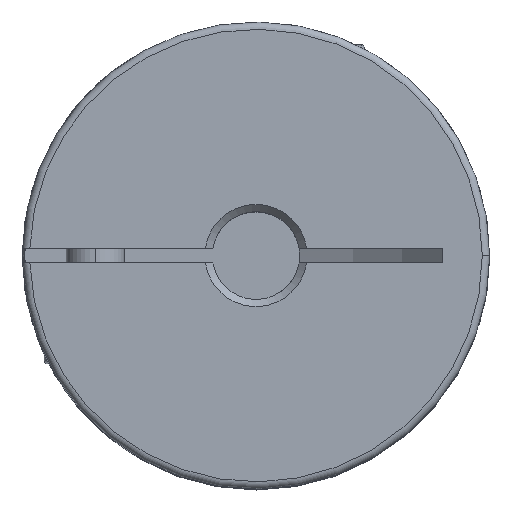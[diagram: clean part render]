
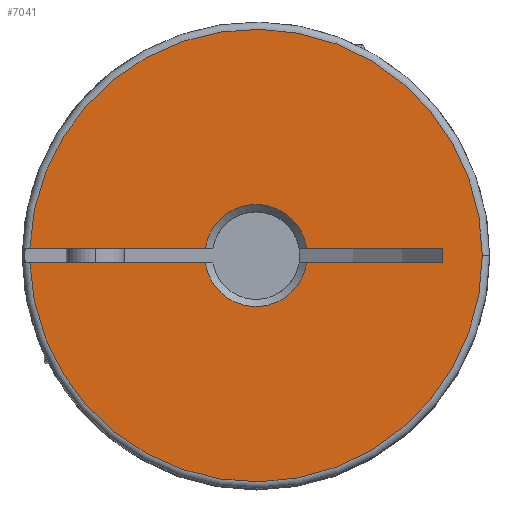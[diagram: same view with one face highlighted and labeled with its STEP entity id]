
A CAD part, top view. The second image highlights one B-rep face of the part: STEP entity #7041.
In plain terms, the highlighted planar face has unit normal (0, 0, 1).
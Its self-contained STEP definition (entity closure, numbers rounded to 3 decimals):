
#152 = EDGE_CURVE ( 'NONE', #3854, #3875, #313, .T. ) ;
#153 = EDGE_CURVE ( 'NONE', #3875, #3871, #296, .T. ) ;
#295 = VECTOR ( 'NONE', #6481, 1000. ) ;
#296 = CIRCLE ( 'NONE', #4513, 3.5 ) ;
#313 = LINE ( 'NONE', #6416, #295 ) ;
#391 = LINE ( 'NONE', #1202, #399 ) ;
#393 = LINE ( 'NONE', #1205, #396 ) ;
#395 = CIRCLE ( 'NONE', #4748, 15.5 ) ;
#396 = VECTOR ( 'NONE', #1204, 1000. ) ;
#397 = LINE ( 'NONE', #1194, #401 ) ;
#399 = VECTOR ( 'NONE', #1203, 1000. ) ;
#400 = LINE ( 'NONE', #1191, #403 ) ;
#401 = VECTOR ( 'NONE', #1193, 1000. ) ;
#403 = VECTOR ( 'NONE', #1190, 1000. ) ;
#753 = FACE_OUTER_BOUND ( 'NONE', #3537, .T. ) ;
#789 = EDGE_CURVE ( 'NONE', #3847, #3868, #2090, .T. ) ;
#1190 = DIRECTION ( 'NONE',  ( 0., -1., 0. ) ) ;
#1191 = CARTESIAN_POINT ( 'NONE',  ( 12.8, 0.5, 17.45 ) ) ;
#1193 = DIRECTION ( 'NONE',  ( -1., 0., 0. ) ) ;
#1194 = CARTESIAN_POINT ( 'NONE',  ( 12.8, 0.5, 17.45 ) ) ;
#1195 = DIRECTION ( 'NONE',  ( 1., 0., 0. ) ) ;
#1198 = DIRECTION ( 'NONE',  ( 0., 0., 1. ) ) ;
#1200 = CARTESIAN_POINT ( 'NONE',  ( 0., 0., 17.45 ) ) ;
#1202 = CARTESIAN_POINT ( 'NONE',  ( 12.8, 0.5, 17.45 ) ) ;
#1203 = DIRECTION ( 'NONE',  ( -1., 0., 0. ) ) ;
#1204 = DIRECTION ( 'NONE',  ( -1., 0., 0. ) ) ;
#1205 = CARTESIAN_POINT ( 'NONE',  ( 12.8, -0.5, 17.45 ) ) ;
#1901 = DIRECTION ( 'NONE',  ( 0., 1., 0. ) ) ;
#1906 = DIRECTION ( 'NONE',  ( 0., 0., -1. ) ) ;
#1907 = CARTESIAN_POINT ( 'NONE',  ( 0., 0., 17.45 ) ) ;
#2090 = CIRCLE ( 'NONE', #4548, 3.5 ) ;
#2529 = CIRCLE ( 'NONE', #4739, 15.5 ) ;
#3141 = CARTESIAN_POINT ( 'NONE',  ( -3.464, 0.5, 17.45 ) ) ;
#3364 = CARTESIAN_POINT ( 'NONE',  ( -15.492, 0.5, 17.45 ) ) ;
#3365 = CARTESIAN_POINT ( 'NONE',  ( 15.5, 0., 17.45 ) ) ;
#3537 = EDGE_LOOP ( 'NONE', ( #5880, #6143, #5882, #6008, #6205, #5795, #5808, #6127, #6121 ) ) ;
#3695 = VERTEX_POINT ( 'NONE', #3365 ) ;
#3696 = VERTEX_POINT ( 'NONE', #3364 ) ;
#3847 = VERTEX_POINT ( 'NONE', #3141 ) ;
#3854 = VERTEX_POINT ( 'NONE', #4408 ) ;
#3868 = VERTEX_POINT ( 'NONE', #4287 ) ;
#3870 = VERTEX_POINT ( 'NONE', #4314 ) ;
#3871 = VERTEX_POINT ( 'NONE', #4327 ) ;
#3873 = VERTEX_POINT ( 'NONE', #4353 ) ;
#3875 = VERTEX_POINT ( 'NONE', #4384 ) ;
#3937 = DIRECTION ( 'NONE',  ( 1., 0., 0. ) ) ;
#3938 = DIRECTION ( 'NONE',  ( 0., 0., 1. ) ) ;
#3939 = CARTESIAN_POINT ( 'NONE',  ( 0., 0., 17.45 ) ) ;
#4274 = EDGE_CURVE ( 'NONE', #3695, #3696, #2529, .T. ) ;
#4287 = CARTESIAN_POINT ( 'NONE',  ( 3.464, 0.5, 17.45 ) ) ;
#4314 = CARTESIAN_POINT ( 'NONE',  ( -15.492, -0.5, 17.45 ) ) ;
#4327 = CARTESIAN_POINT ( 'NONE',  ( -3.464, -0.5, 17.45 ) ) ;
#4353 = CARTESIAN_POINT ( 'NONE',  ( 12.8, 0.5, 17.45 ) ) ;
#4384 = CARTESIAN_POINT ( 'NONE',  ( 3.464, -0.5, 17.45 ) ) ;
#4408 = CARTESIAN_POINT ( 'NONE',  ( 12.8, -0.5, 17.45 ) ) ;
#4513 = AXIS2_PLACEMENT_3D ( 'NONE', #6399, #6406, #6394 ) ;
#4548 = AXIS2_PLACEMENT_3D ( 'NONE', #1907, #1906, #1901 ) ;
#4739 = AXIS2_PLACEMENT_3D ( 'NONE', #3939, #3938, #3937 ) ;
#4748 = AXIS2_PLACEMENT_3D ( 'NONE', #1200, #1198, #1195 ) ;
#4887 = AXIS2_PLACEMENT_3D ( 'NONE', #5010, #4993, #4992 ) ;
#4992 = DIRECTION ( 'NONE',  ( 1., 0., 0. ) ) ;
#4993 = DIRECTION ( 'NONE',  ( 0., 0., -1. ) ) ;
#4997 = PLANE ( 'NONE',  #4887 ) ;
#5010 = CARTESIAN_POINT ( 'NONE',  ( 0., 0., 17.45 ) ) ;
#5091 = EDGE_CURVE ( 'NONE', #3871, #3870, #393, .T. ) ;
#5093 = EDGE_CURVE ( 'NONE', #3870, #3695, #395, .T. ) ;
#5265 = EDGE_CURVE ( 'NONE', #3873, #3868, #391, .T. ) ;
#5266 = EDGE_CURVE ( 'NONE', #3847, #3696, #397, .T. ) ;
#5267 = EDGE_CURVE ( 'NONE', #3873, #3854, #400, .T. ) ;
#5795 = ORIENTED_EDGE ( 'NONE', *, *, #5266, .F. ) ;
#5808 = ORIENTED_EDGE ( 'NONE', *, *, #789, .T. ) ;
#5880 = ORIENTED_EDGE ( 'NONE', *, *, #152, .T. ) ;
#5882 = ORIENTED_EDGE ( 'NONE', *, *, #5091, .T. ) ;
#6008 = ORIENTED_EDGE ( 'NONE', *, *, #5093, .T. ) ;
#6121 = ORIENTED_EDGE ( 'NONE', *, *, #5267, .T. ) ;
#6127 = ORIENTED_EDGE ( 'NONE', *, *, #5265, .F. ) ;
#6143 = ORIENTED_EDGE ( 'NONE', *, *, #153, .T. ) ;
#6205 = ORIENTED_EDGE ( 'NONE', *, *, #4274, .T. ) ;
#6394 = DIRECTION ( 'NONE',  ( 0., 1., 0. ) ) ;
#6399 = CARTESIAN_POINT ( 'NONE',  ( 0., 0., 17.45 ) ) ;
#6406 = DIRECTION ( 'NONE',  ( 0., 0., -1. ) ) ;
#6416 = CARTESIAN_POINT ( 'NONE',  ( 12.8, -0.5, 17.45 ) ) ;
#6481 = DIRECTION ( 'NONE',  ( -1., 0., 0. ) ) ;
#7041 = ADVANCED_FACE ( 'NONE', ( #753 ), #4997, .F. ) ;
